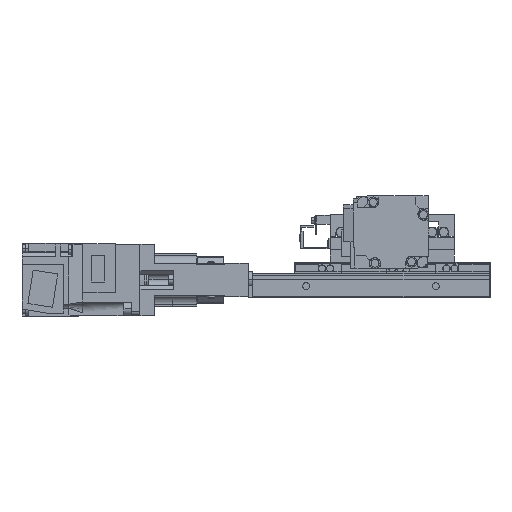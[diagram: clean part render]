
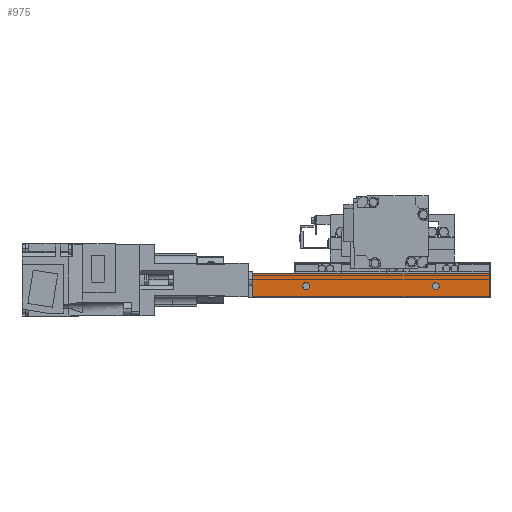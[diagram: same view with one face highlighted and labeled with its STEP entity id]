
A CAD part, front view. The second image highlights one B-rep face of the part: STEP entity #975.
In plain terms, the highlighted planar face has unit normal (0, -1, 0).
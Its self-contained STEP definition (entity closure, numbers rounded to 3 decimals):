
#975=ADVANCED_FACE('',(#2793,#2794,#2795),#2796,.F.);
#2793=FACE_BOUND('',#5869,.T.);
#2794=FACE_OUTER_BOUND('',#5870,.T.);
#2795=FACE_BOUND('',#5871,.T.);
#2796=PLANE('',#5872);
#5869=EDGE_LOOP('',(#11124,#11125));
#5870=EDGE_LOOP('',(#11126,#11127,#11128,#11129));
#5871=EDGE_LOOP('',(#11130,#11131));
#5872=AXIS2_PLACEMENT_3D('',#11132,#11133,#11134);
#11124=ORIENTED_EDGE('',*,*,#20788,.F.);
#11125=ORIENTED_EDGE('',*,*,#20811,.F.);
#11126=ORIENTED_EDGE('',*,*,#20812,.T.);
#11127=ORIENTED_EDGE('',*,*,#20813,.F.);
#11128=ORIENTED_EDGE('',*,*,#20814,.F.);
#11129=ORIENTED_EDGE('',*,*,#20815,.T.);
#11130=ORIENTED_EDGE('',*,*,#20784,.F.);
#11131=ORIENTED_EDGE('',*,*,#20816,.F.);
#11132=CARTESIAN_POINT('',(54.5,-51.8,13.5));
#11133=DIRECTION('',(0.,1.0,0.));
#11134=DIRECTION('',(0.,0.,-1.0));
#20784=EDGE_CURVE('',#24871,#24867,#24873,.F.);
#20788=EDGE_CURVE('',#24879,#24875,#24881,.F.);
#20811=EDGE_CURVE('',#24875,#24879,#24922,.F.);
#20812=EDGE_CURVE('',#24923,#24924,#24925,.T.);
#20813=EDGE_CURVE('',#24926,#24924,#24927,.T.);
#20814=EDGE_CURVE('',#24928,#24926,#24929,.T.);
#20815=EDGE_CURVE('',#24928,#24923,#24930,.T.);
#20816=EDGE_CURVE('',#24867,#24871,#24931,.F.);
#24867=VERTEX_POINT('',#31228);
#24871=VERTEX_POINT('',#31233);
#24873=CIRCLE('',#31236,1.95);
#24875=VERTEX_POINT('',#31238);
#24879=VERTEX_POINT('',#31243);
#24881=CIRCLE('',#31246,1.95);
#24922=CIRCLE('',#31301,1.95);
#24923=VERTEX_POINT('',#31302);
#24924=VERTEX_POINT('',#31303);
#24925=LINE('',#31304,#31305);
#24926=VERTEX_POINT('',#31306);
#24927=LINE('',#31307,#31308);
#24928=VERTEX_POINT('',#31309);
#24929=LINE('',#31310,#31311);
#24930=LINE('',#31312,#31313);
#24931=CIRCLE('',#31314,1.95);
#31228=CARTESIAN_POINT('',(26.45,-51.8,6.5));
#31233=CARTESIAN_POINT('',(22.55,-51.8,6.5));
#31236=AXIS2_PLACEMENT_3D('',#39440,#39441,#39442);
#31238=CARTESIAN_POINT('',(-46.55,-51.8,6.5));
#31243=CARTESIAN_POINT('',(-50.45,-51.8,6.5));
#31246=AXIS2_PLACEMENT_3D('',#39448,#39449,#39450);
#31301=AXIS2_PLACEMENT_3D('',#39489,#39490,#39491);
#31302=CARTESIAN_POINT('',(-78.5,-51.8,13.5));
#31303=CARTESIAN_POINT('',(-78.5,-51.8,0.5));
#31304=CARTESIAN_POINT('',(-78.5,-51.8,13.5));
#31305=VECTOR('',#39492,1000.0);
#31306=CARTESIAN_POINT('',(54.5,-51.8,0.5));
#31307=CARTESIAN_POINT('',(54.5,-51.8,0.5));
#31308=VECTOR('',#39493,1000.0);
#31309=CARTESIAN_POINT('',(54.5,-51.8,13.5));
#31310=CARTESIAN_POINT('',(54.5,-51.8,13.5));
#31311=VECTOR('',#39494,1000.0);
#31312=CARTESIAN_POINT('',(54.5,-51.8,13.5));
#31313=VECTOR('',#39495,1000.0);
#31314=AXIS2_PLACEMENT_3D('',#39496,#39497,#39498);
#39440=CARTESIAN_POINT('',(24.5,-51.8,6.5));
#39441=DIRECTION('',(0.,1.0,0.));
#39442=DIRECTION('',(-1.0,0.,0.));
#39448=CARTESIAN_POINT('',(-48.5,-51.8,6.5));
#39449=DIRECTION('',(0.,1.0,0.));
#39450=DIRECTION('',(-1.0,0.,0.));
#39489=CARTESIAN_POINT('',(-48.5,-51.8,6.5));
#39490=DIRECTION('',(0.,1.0,0.));
#39491=DIRECTION('',(-1.0,0.,0.));
#39492=DIRECTION('',(0.,0.,-1.0));
#39493=DIRECTION('',(-1.0,0.,0.));
#39494=DIRECTION('',(0.,0.,-1.0));
#39495=DIRECTION('',(-1.0,0.,0.));
#39496=CARTESIAN_POINT('',(24.5,-51.8,6.5));
#39497=DIRECTION('',(0.,1.0,0.));
#39498=DIRECTION('',(-1.0,0.,0.));
